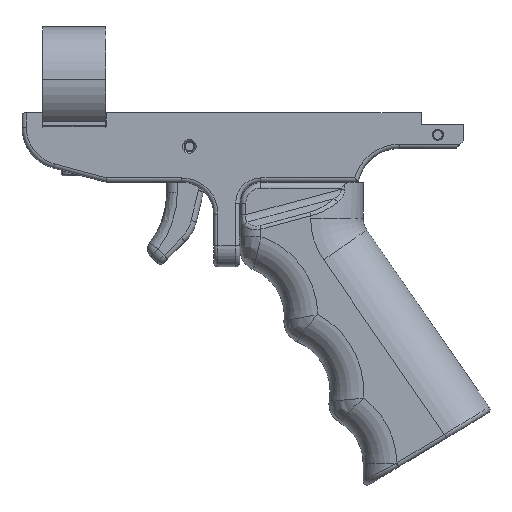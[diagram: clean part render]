
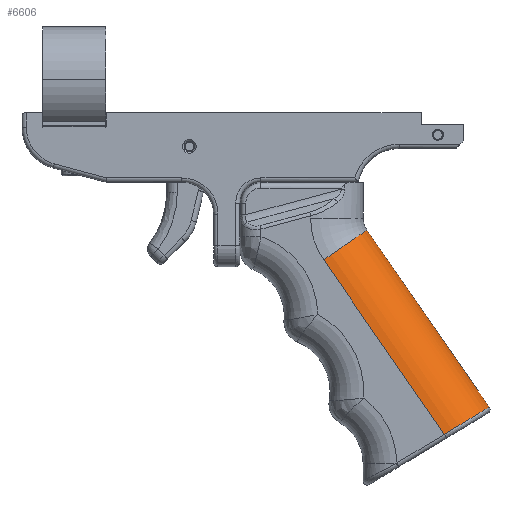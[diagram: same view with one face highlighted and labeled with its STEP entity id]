
A CAD part, top view. The second image highlights one B-rep face of the part: STEP entity #6606.
In plain terms, the highlighted cylindrical face has radius 15.875 mm (diameter 31.75 mm), a partial arc.
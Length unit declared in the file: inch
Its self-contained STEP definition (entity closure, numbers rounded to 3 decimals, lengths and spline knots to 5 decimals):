
#631 = AXIS2_PLACEMENT_3D ( 'NONE', #14071, #14072, #14073 ) ;
#633 = CYLINDRICAL_SURFACE ( 'NONE', #631, 0.625 ) ;
#668 = FACE_OUTER_BOUND ( 'NONE', #5273, .T. ) ;
#4329 = VECTOR ( 'NONE', #13234, 39.37008 ) ;
#5273 = EDGE_LOOP ( 'NONE', ( #22921, #22924, #22923, #22925 ) ) ;
#5668 = VERTEX_POINT ( 'NONE', #12741 ) ;
#5669 = VERTEX_POINT ( 'NONE', #12742 ) ;
#5853 = VERTEX_POINT ( 'NONE', #8824 ) ;
#5854 = VERTEX_POINT ( 'NONE', #8825 ) ;
#6520 = EDGE_CURVE ( 'NONE', #5854, #5853, #13232, .T. ) ;
#6606 = ADVANCED_FACE ( 'NONE', ( #668 ), #633, .T. ) ;
#8448 = CIRCLE ( 'NONE', #17538, 0.625 ) ;
#8824 = CARTESIAN_POINT ( 'NONE',  ( 0.59373, -0.72603, 0.7932 ) ) ;
#8825 = CARTESIAN_POINT ( 'NONE',  ( 2.02997, -2.80268, 0.7932 ) ) ;
#12741 = CARTESIAN_POINT ( 'NONE',  ( 1.10777, -0.37052, 0.1682 ) ) ;
#12742 = CARTESIAN_POINT ( 'NONE',  ( 2.5646, -2.47695, 0.1682 ) ) ;
#13232 = LINE ( 'NONE', #13233, #4329 ) ;
#13233 = CARTESIAN_POINT ( 'NONE',  ( 0.56034, -0.67774, 0.7932 ) ) ;
#13234 = DIRECTION ( 'NONE',  ( -0.569, 0.822, 0. ) ) ;
#14071 = CARTESIAN_POINT ( 'NONE',  ( 0.56034, -0.67774, 0.1682 ) ) ;
#14072 = DIRECTION ( 'NONE',  ( -0.569, 0.822, 0. ) ) ;
#14073 = DIRECTION ( 'NONE',  ( -0.822, -0.569, 0. ) ) ;
#17419 = LINE ( 'NONE', #17420, #17540 ) ;
#17420 = CARTESIAN_POINT ( 'NONE',  ( 1.10777, -0.37052, 0.1682 ) ) ;
#17421 = DIRECTION ( 'NONE',  ( -0.569, 0.822, 0. ) ) ;
#17430 = CARTESIAN_POINT ( 'NONE',  ( 0.59373, -0.72603, 0.1682 ) ) ;
#17437 = DIRECTION ( 'NONE',  ( -0.569, 0.822, 0. ) ) ;
#17438 = DIRECTION ( 'NONE',  ( -0.822, -0.569, 0. ) ) ;
#17439 = CARTESIAN_POINT ( 'NONE',  ( 2.02997, -2.80268, 0.7932 ) ) ;
#17440 = CARTESIAN_POINT ( 'NONE',  ( 2.34315, -2.61187, 0.7932 ) ) ;
#17441 = CARTESIAN_POINT ( 'NONE',  ( 2.5646, -2.47695, 0.53432 ) ) ;
#17538 = AXIS2_PLACEMENT_3D ( 'NONE', #17430, #17437, #17438 ) ;
#17540 = VECTOR ( 'NONE', #17421, 39.37008 ) ;
#17684 = CARTESIAN_POINT ( 'NONE',  ( 2.5646, -2.47695, 0.1682 ) ) ;
#19297 = EDGE_CURVE ( 'NONE', #5669, #5668, #17419, .T. ) ;
#19302 = EDGE_CURVE ( 'NONE', #5853, #5668, #8448, .T. ) ;
#19303 = EDGE_CURVE ( 'NONE', #5854, #5669, #23763, .T. ) ;
#22921 = ORIENTED_EDGE ( 'NONE', *, *, #6520, .F. ) ;
#22923 = ORIENTED_EDGE ( 'NONE', *, *, #19297, .T. ) ;
#22924 = ORIENTED_EDGE ( 'NONE', *, *, #19303, .T. ) ;
#22925 = ORIENTED_EDGE ( 'NONE', *, *, #19302, .F. ) ;
#23763 =( BOUNDED_CURVE ( )  B_SPLINE_CURVE ( 3, ( #17439, #17440, #17441, #17684 ),
 .UNSPECIFIED., .F., .T. ) 
 B_SPLINE_CURVE_WITH_KNOTS ( ( 4, 4 ),
 ( 1.5708, 3.14159 ),
 .UNSPECIFIED. ) 
 CURVE ( )  GEOMETRIC_REPRESENTATION_ITEM ( )  RATIONAL_B_SPLINE_CURVE ( ( 1., 0.805, 0.805, 1. ) ) 
 REPRESENTATION_ITEM ( '' )  );
